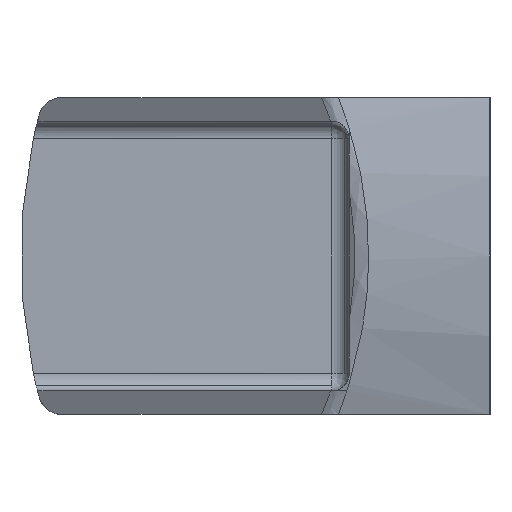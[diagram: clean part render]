
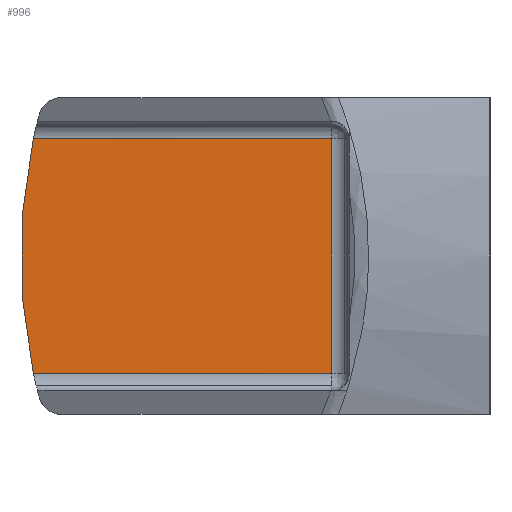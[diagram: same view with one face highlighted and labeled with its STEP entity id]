
A CAD part, left-side view. The second image highlights one B-rep face of the part: STEP entity #996.
In plain terms, the highlighted planar face has unit normal (-1, 0, 0).
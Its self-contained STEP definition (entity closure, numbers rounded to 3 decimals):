
#19 = ORIENTED_EDGE ( 'NONE', *, *, #1171, .T. ) ;
#114 = DIRECTION ( 'NONE',  ( 0., 0., -1. ) ) ;
#145 = VECTOR ( 'NONE', #114, 1000. ) ;
#170 = ORIENTED_EDGE ( 'NONE', *, *, #3271, .F. ) ;
#219 = EDGE_CURVE ( 'NONE', #2051, #1790, #839, .T. ) ;
#252 = AXIS2_PLACEMENT_3D ( 'NONE', #2000, #3269, #2796 ) ;
#518 = PLANE ( 'NONE',  #3038 ) ;
#620 = CARTESIAN_POINT ( 'NONE',  ( -48.5, -11.5, 10. ) ) ;
#776 = EDGE_CURVE ( 'NONE', #1790, #1418, #2563, .T. ) ;
#839 = LINE ( 'NONE', #620, #145 ) ;
#996 = ADVANCED_FACE ( 'NONE', ( #2324 ), #518, .F. ) ;
#1064 = DIRECTION ( 'NONE',  ( 0., 1., 0. ) ) ;
#1067 = CARTESIAN_POINT ( 'NONE',  ( -48.5, 13.913, -10. ) ) ;
#1091 = DIRECTION ( 'NONE',  ( 0., 1., 0. ) ) ;
#1113 = CIRCLE ( 'NONE', #252, 46.563 ) ;
#1171 = EDGE_CURVE ( 'NONE', #2653, #1418, #1113, .T. ) ;
#1312 = CARTESIAN_POINT ( 'NONE',  ( -48.5, 15., 0. ) ) ;
#1418 = VERTEX_POINT ( 'NONE', #1067 ) ;
#1535 = CARTESIAN_POINT ( 'NONE',  ( -48.5, 13.913, 10. ) ) ;
#1604 = DIRECTION ( 'NONE',  ( 1., 0., 0. ) ) ;
#1685 = EDGE_LOOP ( 'NONE', ( #19, #3006, #2576, #170 ) ) ;
#1790 = VERTEX_POINT ( 'NONE', #1819 ) ;
#1819 = CARTESIAN_POINT ( 'NONE',  ( -48.5, -11.5, -10. ) ) ;
#1847 = CARTESIAN_POINT ( 'NONE',  ( -48.5, -11.5, 10. ) ) ;
#1948 = CARTESIAN_POINT ( 'NONE',  ( -48.5, 13.913, 10. ) ) ;
#1973 = VECTOR ( 'NONE', #2208, 1000. ) ;
#2000 = CARTESIAN_POINT ( 'NONE',  ( -48.5, -31.563, 0. ) ) ;
#2051 = VERTEX_POINT ( 'NONE', #1847 ) ;
#2085 = CARTESIAN_POINT ( 'NONE',  ( -48.5, -11.5, -10. ) ) ;
#2208 = DIRECTION ( 'NONE',  ( 0., -1., 0. ) ) ;
#2296 = VECTOR ( 'NONE', #1064, 1000. ) ;
#2324 = FACE_OUTER_BOUND ( 'NONE', #1685, .T. ) ;
#2563 = LINE ( 'NONE', #2085, #2296 ) ;
#2576 = ORIENTED_EDGE ( 'NONE', *, *, #219, .F. ) ;
#2653 = VERTEX_POINT ( 'NONE', #1535 ) ;
#2796 = DIRECTION ( 'NONE',  ( 0., -0.957, 0.29 ) ) ;
#3006 = ORIENTED_EDGE ( 'NONE', *, *, #776, .F. ) ;
#3038 = AXIS2_PLACEMENT_3D ( 'NONE', #1312, #1604, #1091 ) ;
#3179 = LINE ( 'NONE', #1948, #1973 ) ;
#3269 = DIRECTION ( 'NONE',  ( -1., 0., 0. ) ) ;
#3271 = EDGE_CURVE ( 'NONE', #2653, #2051, #3179, .T. ) ;
